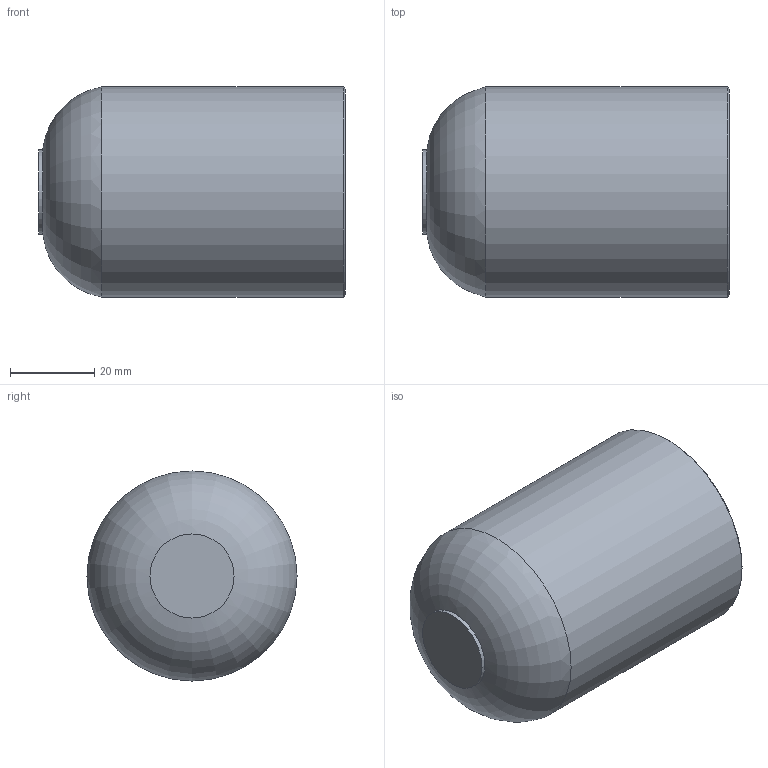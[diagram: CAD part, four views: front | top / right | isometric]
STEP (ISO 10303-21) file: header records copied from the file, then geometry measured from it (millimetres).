
FILE_DESCRIPTION(/* description */ ('Unknown'),/* implementation_level */ '2;1');
FILE_NAME(/* name */ 'CAP050C',/* time_stamp */ '2021-02-04T09:10:05+01:00',/* author */ ('Unknown'),/* organization */ ('Unknown'),/* preprocessor_version */ 'ST-DEVELOPER v16.7',/* originating_system */ 'Solid Edge',/* authorisation */ 'Unknown');
FILE_SCHEMA (('AUTOMOTIVE_DESIGN {1 0 10303 214 3 1 1}'));
Length unit declared in the file: millimetre
Products named in the file (1): CAP050C
Bounding box: 73 x 50 x 50 mm (x, y, z)
Volume: 49665.5 mm3; surface area: 21926.6 mm2
Topology: 1 solids, 1 shells, 9 faces, 15 edges, 9 vertices
Faces by surface type: plane 3, cylinder 3, torus 2, cone 1
Full cylindrical faces by diameter (mm): 20 x1, 40.8 x1, 50 x1
Entity records: 204 total; most frequent: DIRECTION 36, CARTESIAN_POINT 26, AXIS2_PLACEMENT_3D 18, ORIENTED_EDGE 16, EDGE_LOOP 16, FACE_BOUND 16, ADVANCED_FACE 9, EDGE_CURVE 8
